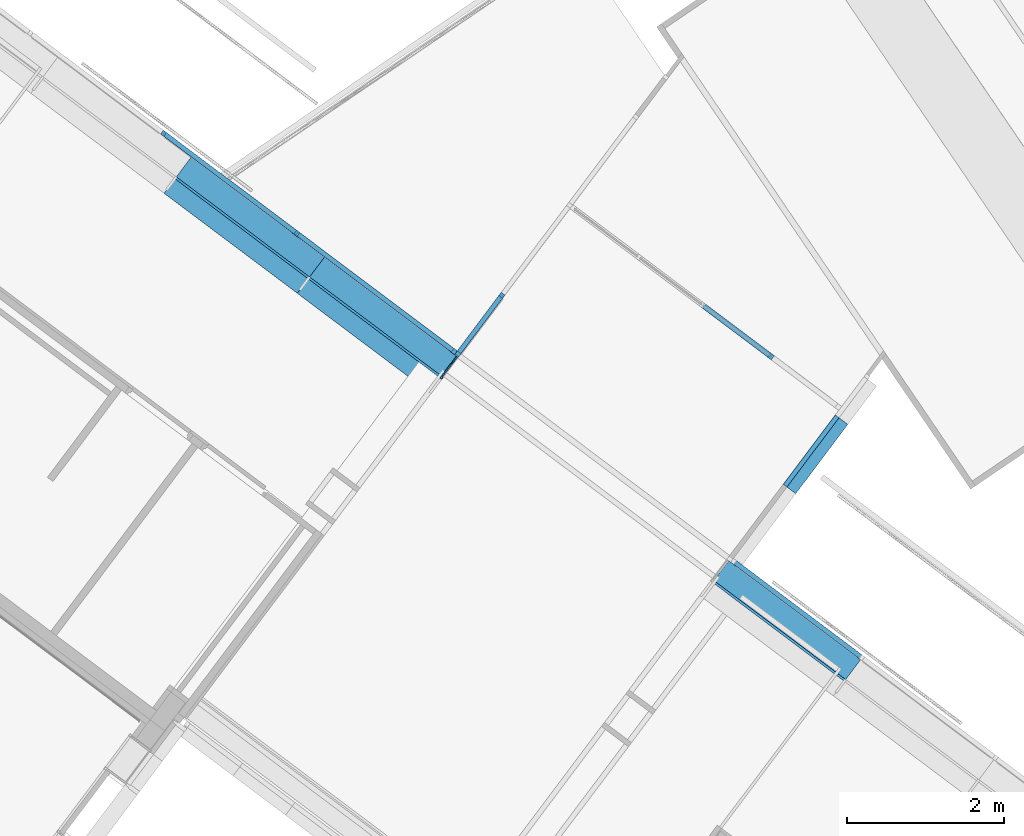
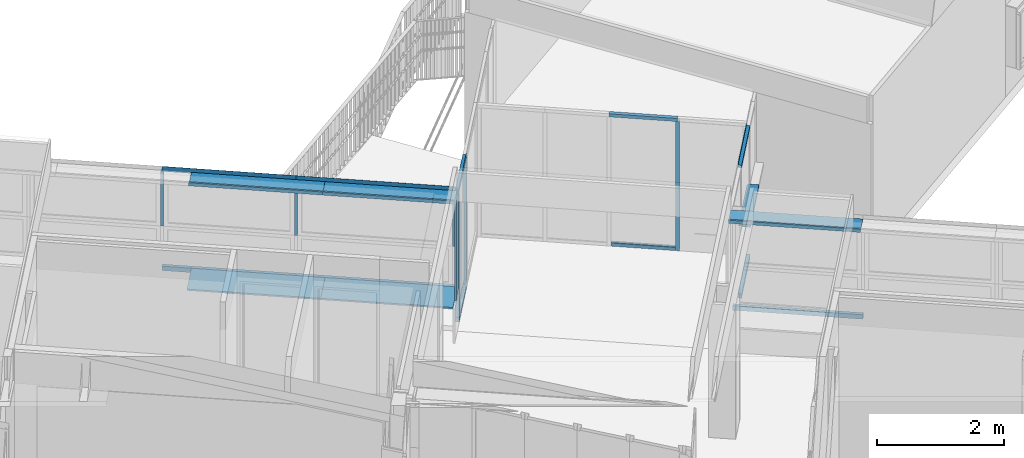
# One storey, part 64 of 243: 24 members, 7 elements without a shape of their own.
"""IFC2X3 building model written with IfcOpenShell, lengths in metres."""

from ifc_helpers import new_model, entity, si_unit, converted_unit, derived_unit, direction, frame, frame_2d, origin, origin_2d_with_axis, place, context, subcontext, project, spatial, polyline, rectangle, outline, extrude, source, transform, mapped, material, type_object, type_shapes, element, aggregate, save


model = new_model("IFC2X3")

# Units and contexts
model_context = context("Model", 3, precision=1e-05, world=origin(), true_north=direction((6.123031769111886e-17, 1.0)))
body_context = subcontext(model_context, "Body", "Model", "MODEL_VIEW")
ifc_project = project(units=[si_unit("LENGTHUNIT", "METRE"), si_unit("AREAUNIT", "SQUARE_METRE"), si_unit("VOLUMEUNIT", "CUBIC_METRE"), converted_unit("PLANEANGLEUNIT", "DEGREE", entity("IfcRatioMeasure", 0.017453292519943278), si_unit("PLANEANGLEUNIT", "RADIAN"), dimensions=[0, 0, 0, 0, 0, 0, 0]), si_unit("MASSUNIT", "GRAM", prefix="KILO"), derived_unit("MASSDENSITYUNIT", [(si_unit("MASSUNIT", "GRAM", prefix="KILO"), 1), (si_unit("LENGTHUNIT", "METRE"), -3)]), derived_unit("IONCONCENTRATIONUNIT", [(si_unit("MASSUNIT", "GRAM", prefix="KILO"), 1), (si_unit("LENGTHUNIT", "METRE"), -3)]), derived_unit("MOMENTOFINERTIAUNIT", [(si_unit("LENGTHUNIT", "METRE"), 4)]), si_unit("TIMEUNIT", "SECOND"), si_unit("FREQUENCYUNIT", "HERTZ"), si_unit("THERMODYNAMICTEMPERATUREUNIT", "DEGREE_CELSIUS"), derived_unit("THERMALTRANSMITTANCEUNIT", [(si_unit("MASSUNIT", "GRAM", prefix="KILO"), 1), (si_unit("THERMODYNAMICTEMPERATUREUNIT", "KELVIN"), -1), (si_unit("TIMEUNIT", "SECOND"), -3)]), derived_unit("THERMALCONDUCTANCEUNIT", [(si_unit("MASSUNIT", "GRAM", prefix="KILO"), 1), (si_unit("THERMODYNAMICTEMPERATUREUNIT", "KELVIN"), -1), (si_unit("TIMEUNIT", "SECOND"), -3), (si_unit("LENGTHUNIT", "METRE"), 1)]), derived_unit("VOLUMETRICFLOWRATEUNIT", [(si_unit("LENGTHUNIT", "METRE"), 3), (si_unit("TIMEUNIT", "SECOND"), -1)]), derived_unit("MASSFLOWRATEUNIT", [(si_unit("MASSUNIT", "GRAM", prefix="KILO"), 1), (si_unit("TIMEUNIT", "SECOND"), -1)]), derived_unit("ROTATIONALFREQUENCYUNIT", [(si_unit("TIMEUNIT", "SECOND"), -1)]), si_unit("ELECTRICCURRENTUNIT", "AMPERE"), si_unit("ELECTRICVOLTAGEUNIT", "VOLT"), si_unit("POWERUNIT", "WATT"), si_unit("FORCEUNIT", "NEWTON", prefix="KILO"), si_unit("ILLUMINANCEUNIT", "LUX"), si_unit("LUMINOUSFLUXUNIT", "LUMEN"), si_unit("LUMINOUSINTENSITYUNIT", "CANDELA"), derived_unit("USERDEFINED", [(si_unit("MASSUNIT", "GRAM", prefix="KILO"), -1), (si_unit("LENGTHUNIT", "METRE"), -2), (si_unit("TIMEUNIT", "SECOND"), 3), (si_unit("LUMINOUSFLUXUNIT", "LUMEN"), 1)]), derived_unit("USERDEFINED", [(si_unit("MASSUNIT", "GRAM", prefix="KILO"), 1), (si_unit("TIMEUNIT", "SECOND"), -3), (si_unit("LENGTHUNIT", "METRE"), 3), (si_unit("ELECTRICCURRENTUNIT", "AMPERE"), -2)]), derived_unit("SOUNDPOWERUNIT", [(si_unit("MASSUNIT", "GRAM", prefix="KILO"), 1), (si_unit("TIMEUNIT", "SECOND"), -3), (si_unit("LENGTHUNIT", "METRE"), 2)]), derived_unit("SOUNDPRESSUREUNIT", [(si_unit("MASSUNIT", "GRAM", prefix="KILO"), 1), (si_unit("LENGTHUNIT", "METRE"), -1), (si_unit("TIMEUNIT", "SECOND"), -2)]), derived_unit("LINEARVELOCITYUNIT", [(si_unit("LENGTHUNIT", "METRE"), 1), (si_unit("TIMEUNIT", "SECOND"), -1)]), si_unit("PRESSUREUNIT", "PASCAL"), derived_unit("USERDEFINED", [(si_unit("MASSUNIT", "GRAM", prefix="KILO"), 1), (si_unit("LENGTHUNIT", "METRE"), -2), (si_unit("TIMEUNIT", "SECOND"), -2)]), derived_unit("LINEARFORCEUNIT", [(si_unit("MASSUNIT", "GRAM", prefix="KILO"), 1), (si_unit("TIMEUNIT", "SECOND"), -2)]), derived_unit("PLANARFORCEUNIT", [(si_unit("MASSUNIT", "GRAM", prefix="KILO"), 1), (si_unit("LENGTHUNIT", "METRE"), -1), (si_unit("TIMEUNIT", "SECOND"), -2)]), derived_unit("SPECIFICHEATCAPACITYUNIT", [(si_unit("THERMODYNAMICTEMPERATUREUNIT", "KELVIN"), -1), (si_unit("LENGTHUNIT", "METRE"), 2), (si_unit("TIMEUNIT", "SECOND"), -2)]), derived_unit("HEATINGVALUEUNIT", [(si_unit("LENGTHUNIT", "METRE"), 2), (si_unit("TIMEUNIT", "SECOND"), -2)]), derived_unit("VAPORPERMEABILITYUNIT", [(si_unit("LENGTHUNIT", "METRE"), -1), (si_unit("TIMEUNIT", "SECOND"), 1)]), derived_unit("DYNAMICVISCOSITYUNIT", [(si_unit("MASSUNIT", "GRAM", prefix="KILO"), 1), (si_unit("TIMEUNIT", "SECOND"), -1), (si_unit("LENGTHUNIT", "METRE"), -1)]), derived_unit("THERMALEXPANSIONCOEFFICIENTUNIT", [(si_unit("THERMODYNAMICTEMPERATUREUNIT", "KELVIN"), -1)]), derived_unit("MODULUSOFELASTICITYUNIT", [(si_unit("MASSUNIT", "GRAM", prefix="KILO"), 1), (si_unit("LENGTHUNIT", "METRE"), -1), (si_unit("TIMEUNIT", "SECOND"), -2)]), derived_unit("ISOTHERMALMOISTURECAPACITYUNIT", [(si_unit("LENGTHUNIT", "METRE"), 3), (si_unit("MASSUNIT", "GRAM", prefix="KILO"), -1)]), derived_unit("MOISTUREDIFFUSIVITYUNIT", [(si_unit("TIMEUNIT", "SECOND"), -1), (si_unit("LENGTHUNIT", "METRE"), 2)])], contexts=[model_context])

# Site, building, storey
site_placement = place(None, frame((0.0, 0.0, 235.0), z_axis=(0.0, 0.0, 1.0), x_axis=(-0.7996477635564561, 0.6004693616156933, 0.0)))
site = spatial("IfcSite", under=ifc_project, at=site_placement, Name="Default", CompositionType="ELEMENT")
building_placement = place(site_placement, origin())
building = spatial("IfcBuilding", under=site, at=building_placement, CompositionType="ELEMENT")
storey_placement = place(building_placement, origin())
storey = spatial("IfcBuildingStorey", under=building, at=storey_placement, Name="P0- Escola", CompositionType="ELEMENT", Elevation=0.0)

# Curtain wall, members
curtain_wall_type_1 = type_object("IfcCurtainWallType", Name="Muro cortina:MC- EXT- MC6", PredefinedType="NOTDEFINED")
curtain_wall_1_placement = place(storey_placement, origin())
curtain_wall_1 = element("IfcCurtainWall", 1, at=curtain_wall_1_placement, inside=storey, type_object=curtain_wall_type_1, Name="Muro cortina:MC- EXT- MC6", ObjectType="Muro cortina:MC- EXT- MC6")
ifc_material_1 = material(Name="_Alumini- T1- Perfil")
member_type_1 = type_object("IfcMemberType", Name="Montante rectangular:MC- Alu- 50x60 cm- Fa pista- Centre", PredefinedType="MULLION", material=ifc_material_1)
shared_shape_1 = source(origin(), body_context, "Body", "SweptSolid", [
    extrude(rectangle(XDim=0.0600000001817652, YDim=0.05, at=frame_2d((-8.673617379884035e-18, 0.0), x_axis=(1.0, 0.0))), frame((-0.025, -0.030000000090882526, -1.0475000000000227), z_axis=(0.0, 0.0, 1.0), x_axis=(0.0, -1.0, 0.0)), (0.0, 0.0, 1.0), 1.0475000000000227),
])
type_shapes(member_type_1, [shared_shape_1])
member_1_placement = place(curtain_wall_1_placement, frame((66.43814360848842, -42.34019175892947, 2.502500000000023), z_axis=(0.0, 0.0, 1.0), x_axis=(-1.0, 0.0, 0.0)))
member_1 = element("IfcMember", 2, at=member_1_placement, type_object=member_type_1, material=ifc_material_1, Name="Montante rectangular:MC- Alu- 50x60 cm- Fa pista- Centre", ObjectType="Montante rectangular:MC- Alu- 50x60 cm- Fa pista- Centre", context=body_context, shape_type="MappedRepresentation", body=[
    mapped(shared_shape_1, transform((0.0, 0.0, 0.0), scale=1.0)),
])
member_type_2 = type_object("IfcMemberType", Name="Montante rectangular:MC- Alu- 140x52,5 cm- Fa pista- Superior", PredefinedType="MULLION", material=ifc_material_1)
shared_shape_2 = source(origin(), body_context, "Body", "SweptSolid", [
    extrude(outline(polyline([(-0.03933333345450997, -0.04916666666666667), (0.02066666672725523, -0.04916666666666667), (0.020666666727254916, 0.048333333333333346), (0.018666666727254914, 0.04833333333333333), (0.018666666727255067, 0.00083333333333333), (-0.03933333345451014, 0.00083333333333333), (-0.03933333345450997, -0.04916666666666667)])), frame((-0.048333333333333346, -0.03933333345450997, -2.117000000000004), z_axis=(0.0, 0.0, 1.0), x_axis=(0.0, -1.0, 0.0)), (0.0, 0.0, 1.0), 2.117000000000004),
])
type_shapes(member_type_2, [shared_shape_2])
member_2_placement = place(curtain_wall_1_placement, frame((71.08155280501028, -42.340191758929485, 2.6000000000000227), z_axis=(1.0, 0.0, 0.0), x_axis=(0.0, 0.0, 1.0)))
member_2 = element("IfcMember", 3, at=member_2_placement, type_object=member_type_2, material=ifc_material_1, Name="Montante rectangular:MC- Alu- 140x52,5 cm- Fa pista- Superior", ObjectType="Montante rectangular:MC- Alu- 140x52,5 cm- Fa pista- Superior", context=body_context, shape_type="MappedRepresentation", body=[
    mapped(shared_shape_2, transform((0.0, 0.0, 0.0), scale=1.0)),
])

# Curtain wall, member
curtain_wall_2_placement = place(storey_placement, origin())
curtain_wall_2 = element("IfcCurtainWall", 4, at=curtain_wall_2_placement, inside=storey, type_object=curtain_wall_type_1, Name="Muro cortina:MC- EXT- MC6", ObjectType="Muro cortina:MC- EXT- MC6")
member_type_3 = type_object("IfcMemberType", Name="Montante rectangular:MC- Alu- 52x80 cm- Fa pista- inferior", PredefinedType="MULLION", material=ifc_material_1)
shared_shape_3 = source(origin(), body_context, "Body", "SweptSolid", [
    extrude(rectangle(XDim=0.06000000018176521, YDim=0.085, at=origin_2d_with_axis()), frame((-0.0425, -0.030000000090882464, -2.0643445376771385), z_axis=(0.0, 0.0, 1.0), x_axis=(0.0, -1.0, 0.0)), (0.0, 0.0, 1.0), 2.064344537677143),
])
type_shapes(member_type_3, [shared_shape_3])
member_3_placement = place(curtain_wall_2_placement, frame((59.986143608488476, -42.34019175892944, 0.6000000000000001), z_axis=(-1.0, 0.0, 0.0), x_axis=(0.0, 0.0, -1.0)))
member_3 = element("IfcMember", 5, at=member_3_placement, type_object=member_type_3, material=ifc_material_1, Name="Montante rectangular:MC- Alu- 52x80 cm- Fa pista- inferior", ObjectType="Montante rectangular:MC- Alu- 52x80 cm- Fa pista- inferior", context=body_context, shape_type="MappedRepresentation", body=[
    mapped(shared_shape_3, transform((0.0, 0.0, 0.0), scale=1.0)),
])
aggregate(curtain_wall_2, [member_3])

# Member
member_type_4 = type_object("IfcMemberType", Name="Montante rectangular:MC- Alu- 52x80 cm- Fa pista- inferior", PredefinedType="MULLION", material=ifc_material_1)
shared_shape_4 = source(origin(), body_context, "Body", "SweptSolid", [
    extrude(rectangle(XDim=0.06000000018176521, YDim=0.085, at=origin_2d_with_axis()), frame((-0.0425, -0.030000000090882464, -2.117000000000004), z_axis=(0.0, 0.0, 1.0), x_axis=(0.0, -1.0, 0.0)), (0.0, 0.0, 1.0), 2.117000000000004),
])
type_shapes(member_type_4, [shared_shape_4])
member_4_placement = place(curtain_wall_1_placement, frame((68.96455280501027, -42.34019175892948, 0.6000000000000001), z_axis=(-1.0, 0.0, 0.0), x_axis=(0.0, 0.0, -1.0)))
member_4 = element("IfcMember", 6, at=member_4_placement, type_object=member_type_4, material=ifc_material_1, Name="Montante rectangular:MC- Alu- 52x80 cm- Fa pista- inferior", ObjectType="Montante rectangular:MC- Alu- 52x80 cm- Fa pista- inferior", context=body_context, shape_type="MappedRepresentation", body=[
    mapped(shared_shape_4, transform((0.0, 0.0, 0.0), scale=1.0)),
])

member_type_5 = type_object("IfcMemberType", Name="Montante rectangular:MC- Alu- 50x60 cm- Fa pista- Centre", PredefinedType="MULLION", material=ifc_material_1)
shared_shape_5 = source(origin(), body_context, "Body", "SweptSolid", [
    extrude(rectangle(XDim=0.0600000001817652, YDim=0.05, at=frame_2d((8.673617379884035e-18, 0.0), x_axis=(1.0, 0.0))), frame((0.0, -0.030000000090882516, -1.0475000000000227), z_axis=(0.0, 0.0, 1.0), x_axis=(0.0, -1.0, 0.0)), (0.0, 0.0, 1.0), 1.0475000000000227),
])
type_shapes(member_type_5, [shared_shape_5])
member_5_placement = place(curtain_wall_1_placement, frame((68.96455280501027, -42.34019175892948, 1.455), z_axis=(0.0, 0.0, -1.0), x_axis=(1.0, 0.0, 0.0)))
member_5 = element("IfcMember", 7, at=member_5_placement, type_object=member_type_5, material=ifc_material_1, Name="Montante rectangular:MC- Alu- 50x60 cm- Fa pista- Centre", ObjectType="Montante rectangular:MC- Alu- 50x60 cm- Fa pista- Centre", context=body_context, shape_type="MappedRepresentation", body=[
    mapped(shared_shape_5, transform((0.0, 0.0, 0.0), scale=1.0)),
])

member_6_placement = place(curtain_wall_1_placement, frame((71.08155280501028, -42.340191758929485, 1.455), z_axis=(0.0, 0.0, -1.0), x_axis=(1.0, 0.0, 0.0)))
member_6 = element("IfcMember", 8, at=member_6_placement, type_object=member_type_5, material=ifc_material_1, Name="Montante rectangular:MC- Alu- 50x60 cm- Fa pista- Centre", ObjectType="Montante rectangular:MC- Alu- 50x60 cm- Fa pista- Centre", context=body_context, shape_type="MappedRepresentation", body=[
    mapped(shared_shape_5, transform((0.0, 0.0, 0.0), scale=1.0)),
])

member_type_6 = type_object("IfcMemberType", Name="Montante rectangular:MC- Alu- 52x80 cm- Fa pista- inferior", PredefinedType="MULLION", material=ifc_material_1)
shared_shape_6 = source(origin(), body_context, "Body", "SweptSolid", [
    extrude(rectangle(XDim=0.06000000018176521, YDim=0.085, at=origin_2d_with_axis()), frame((-0.0425, -0.030000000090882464, -2.5264091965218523), z_axis=(0.0, 0.0, 1.0), x_axis=(0.0, -1.0, 0.0)), (0.0, 0.0, 1.0), 2.526409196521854),
])
type_shapes(member_type_6, [shared_shape_6])
member_7_placement = place(curtain_wall_1_placement, frame((66.43814360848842, -42.34019175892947, 0.6000000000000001), z_axis=(-1.0, 0.0, 0.0), x_axis=(0.0, 0.0, -1.0)))
member_7 = element("IfcMember", 9, at=member_7_placement, type_object=member_type_6, material=ifc_material_1, Name="Montante rectangular:MC- Alu- 52x80 cm- Fa pista- inferior", ObjectType="Montante rectangular:MC- Alu- 52x80 cm- Fa pista- inferior", context=body_context, shape_type="MappedRepresentation", body=[
    mapped(shared_shape_6, transform((0.0, 0.0, 0.0), scale=1.0)),
])

member_type_7 = type_object("IfcMemberType", Name="Montante rectangular:MC- Alu- 140x52,5 cm- Fa pista- Superior", PredefinedType="MULLION", material=ifc_material_1)
shared_shape_7 = source(origin(), body_context, "Body", "SweptSolid", [
    extrude(outline(polyline([(-0.03933333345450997, -0.04916666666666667), (0.02066666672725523, -0.04916666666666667), (0.020666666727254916, 0.048333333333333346), (0.018666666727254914, 0.04833333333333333), (0.018666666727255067, 0.00083333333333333), (-0.03933333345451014, 0.00083333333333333), (-0.03933333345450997, -0.04916666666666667)])), frame((-0.048333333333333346, -0.03933333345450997, -2.5264091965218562), z_axis=(0.0, 0.0, 1.0), x_axis=(0.0, -1.0, 0.0)), (0.0, 0.0, 1.0), 2.526409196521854),
])
type_shapes(member_type_7, [shared_shape_7])
member_8_placement = place(curtain_wall_1_placement, frame((68.96455280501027, -42.34019175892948, 2.6000000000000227), z_axis=(1.0, 0.0, 0.0), x_axis=(0.0, 0.0, 1.0)))
member_8 = element("IfcMember", 10, at=member_8_placement, type_object=member_type_7, material=ifc_material_1, Name="Montante rectangular:MC- Alu- 140x52,5 cm- Fa pista- Superior", ObjectType="Montante rectangular:MC- Alu- 140x52,5 cm- Fa pista- Superior", context=body_context, shape_type="MappedRepresentation", body=[
    mapped(shared_shape_7, transform((0.0, 0.0, 0.0), scale=1.0)),
])

aggregate(curtain_wall_1, [member_7, member_1, member_2, member_8, member_4, member_5, member_6])

# Curtain wall, member
curtain_wall_type_2 = type_object("IfcCurtainWallType", PredefinedType="NOTDEFINED")
curtain_wall_3_placement = place(storey_placement, origin())
curtain_wall_3 = element("IfcCurtainWall", 11, at=curtain_wall_3_placement, inside=storey, type_object=curtain_wall_type_2)
ifc_material_2 = material(Name="_Fusta massisa- T1")
member_type_8 = type_object("IfcMemberType", Name="Montante rectangular:MC- Fusta- 34x3 cm- Fa Pista- Remat Superior", PredefinedType="MULLION", material=ifc_material_2)
shared_shape_8 = source(origin(), body_context, "Body", "SweptSolid", [
    extrude(outline(polyline([(-0.2199999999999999, -0.02666666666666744), (0.12500000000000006, -0.02666666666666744), (0.12499999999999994, 0.03333333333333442), (0.09499999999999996, 0.03333333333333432), (0.09499999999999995, -0.0066666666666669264), (-0.21999999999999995, -0.006666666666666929), (-0.2199999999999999, -0.02666666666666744)])), frame((-0.033333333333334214, 0.029999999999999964, -2.0943445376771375), z_axis=(0.0, 0.0, 1.0), x_axis=(0.0, -1.0, 0.0)), (0.0, 0.0, 1.0), 2.0943445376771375),
])
type_shapes(member_type_8, [shared_shape_8])
member_9_placement = place(curtain_wall_3_placement, frame((62.08048814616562, -42.03019175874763, 2.565), z_axis=(1.0, 0.0, 0.0), x_axis=(0.0, 0.0, 1.0)))
member_9 = element("IfcMember", 12, at=member_9_placement, type_object=member_type_8, material=ifc_material_2, Name="Montante rectangular:MC- Fusta- 34x3 cm- Fa Pista- Remat Superior", ObjectType="Montante rectangular:MC- Fusta- 34x3 cm- Fa Pista- Remat Superior", context=body_context, shape_type="MappedRepresentation", body=[
    mapped(shared_shape_8, transform((0.0, 0.0, 0.0), scale=1.0)),
])
aggregate(curtain_wall_3, [member_9])

# Curtain wall, members
curtain_wall_type_3 = type_object("IfcCurtainWallType", PredefinedType="NOTDEFINED")
curtain_wall_4_placement = place(storey_placement, origin())
curtain_wall_4 = element("IfcCurtainWall", 13, at=curtain_wall_4_placement, inside=storey, type_object=curtain_wall_type_3)
member_type_9 = type_object("IfcMemberType", Name="Montante rectangular:MC- Alu- 52x80 cm- Fa pista- inferior", PredefinedType="MULLION", material=ifc_material_1)
shared_shape_9 = source(origin(), body_context, "Body", "SweptSolid", [
    extrude(rectangle(XDim=0.06000000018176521, YDim=0.085, at=origin_2d_with_axis()), frame((-0.0425, -0.030000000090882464, -1.1020000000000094), z_axis=(0.0, 0.0, 1.0), x_axis=(0.0, -1.0, 0.0)), (0.0, 0.0, 1.0), 1.1020000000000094),
])
type_shapes(member_type_9, [shared_shape_9])
member_10_placement = place(curtain_wall_4_placement, frame((62.05048814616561, -43.47118994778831, 0.0), z_axis=(0.0, 1.0, 0.0), x_axis=(0.0, 0.0, -1.0)))
member_10 = element("IfcMember", 14, at=member_10_placement, type_object=member_type_9, material=ifc_material_1, Name="Montante rectangular:MC- Alu- 52x80 cm- Fa pista- inferior", ObjectType="Montante rectangular:MC- Alu- 52x80 cm- Fa pista- inferior", context=body_context, shape_type="MappedRepresentation", body=[
    mapped(shared_shape_9, transform((0.0, 0.0, 0.0), scale=1.0)),
])
member_type_10 = type_object("IfcMemberType", Name="Montante rectangular:MC- Alu- 140x52,5 cm- Fa pista- Superior", PredefinedType="MULLION", material=ifc_material_1)
shared_shape_10 = source(origin(), body_context, "Body", "SweptSolid", [
    extrude(outline(polyline([(-0.03933333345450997, -0.04916666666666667), (0.02066666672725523, -0.04916666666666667), (0.020666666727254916, 0.048333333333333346), (0.018666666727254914, 0.04833333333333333), (0.018666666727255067, 0.00083333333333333), (-0.03933333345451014, 0.00083333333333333), (-0.03933333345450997, -0.04916666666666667)])), frame((-0.048333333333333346, -0.03933333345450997, -1.1020000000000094), z_axis=(0.0, 0.0, 1.0), x_axis=(0.0, -1.0, 0.0)), (0.0, 0.0, 1.0), 1.1020000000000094),
])
type_shapes(member_type_10, [shared_shape_10])
member_11_placement = place(curtain_wall_4_placement, frame((62.050488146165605, -44.57318994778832, 2.6000000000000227), z_axis=(0.0, -1.0, 0.0), x_axis=(0.0, 0.0, 1.0)))
member_11 = element("IfcMember", 15, at=member_11_placement, type_object=member_type_10, material=ifc_material_1, Name="Montante rectangular:MC- Alu- 140x52,5 cm- Fa pista- Superior", ObjectType="Montante rectangular:MC- Alu- 140x52,5 cm- Fa pista- Superior", context=body_context, shape_type="MappedRepresentation", body=[
    mapped(shared_shape_10, transform((0.0, 0.0, 0.0), scale=1.0)),
])
member_type_11 = type_object("IfcMemberType", Name="Montante rectangular:MC- Alu- 140x52,5 cm- Fa patis- Centre", PredefinedType="MULLION", material=ifc_material_1)
shared_shape_11 = source(origin(), body_context, "Body", "SweptSolid", [
    extrude(outline(polyline([(-0.11699999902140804, -0.026250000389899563), (0.021999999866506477, -0.026250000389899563), (0.021999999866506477, -0.01500000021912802), (0.07299999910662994, -0.01500000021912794), (0.07299999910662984, 0.015000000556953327), (0.02200000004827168, 0.015000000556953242), (0.02200000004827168, 0.026250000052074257), (-0.11699999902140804, 0.026250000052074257), (-0.11699999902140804, -0.026250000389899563)])), frame((0.0, 0.022999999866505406, -1.1020000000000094), z_axis=(0.0, 0.0, 1.0), x_axis=(0.0, -1.0, 0.0)), (0.0, 0.0, 1.0), 1.1020000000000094),
])
type_shapes(member_type_11, [shared_shape_11])
member_12_placement = place(curtain_wall_4_placement, frame((62.050488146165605, -44.57318994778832, 1.4000000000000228), z_axis=(0.0, -1.0, 0.0), x_axis=(0.0, 0.0, 1.0)))
member_12 = element("IfcMember", 16, at=member_12_placement, type_object=member_type_11, material=ifc_material_1, Name="Montante rectangular:MC- Alu- 140x52,5 cm- Fa patis- Centre", ObjectType="Montante rectangular:MC- Alu- 140x52,5 cm- Fa patis- Centre", context=body_context, shape_type="MappedRepresentation", body=[
    mapped(shared_shape_11, transform((0.0, 0.0, 0.0), scale=1.0)),
])
aggregate(curtain_wall_4, [member_10, member_11, member_12])

curtain_wall_5_placement = place(storey_placement, origin())
curtain_wall_5 = element("IfcCurtainWall", 17, at=curtain_wall_5_placement, inside=storey, type_object=curtain_wall_type_3)
member_type_12 = type_object("IfcMemberType", Name="Montante rectangular:MC- Alu- 52x80 cm- Fa pista- inferior", PredefinedType="MULLION", material=ifc_material_1)
shared_shape_12 = source(origin(), body_context, "Body", "SweptSolid", [
    extrude(rectangle(XDim=0.06000000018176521, YDim=0.08500000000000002, at=frame_2d((-5.204170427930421e-18, -6.938893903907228e-18), x_axis=(1.0, 0.0))), frame((-0.0425, 0.030000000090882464, -0.9549981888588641), z_axis=(0.0, 0.0, 1.0), x_axis=(0.0, -1.0, 0.0)), (0.0, 0.0, 1.0), 0.9549981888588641),
])
type_shapes(member_type_12, [shared_shape_12])
member_13_placement = place(curtain_wall_5_placement, frame((66.43814360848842, -42.290191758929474, 0.0), z_axis=(0.0, 1.0, 0.0), x_axis=(0.0, 0.0, -1.0)))
member_13 = element("IfcMember", 18, at=member_13_placement, type_object=member_type_12, material=ifc_material_1, Name="Montante rectangular:MC- Alu- 52x80 cm- Fa pista- inferior", ObjectType="Montante rectangular:MC- Alu- 52x80 cm- Fa pista- inferior", context=body_context, shape_type="MappedRepresentation", body=[
    mapped(shared_shape_12, transform((0.0, 0.0, 0.0), scale=1.0)),
])
member_type_13 = type_object("IfcMemberType", Name="Montante rectangular:MC- Alu- 50x60 cm- Fa pista- Centre", PredefinedType="MULLION", material=ifc_material_1)
shared_shape_13 = source(origin(), body_context, "Body", "SweptSolid", [
    extrude(rectangle(XDim=0.06000000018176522, YDim=0.05, at=origin_2d_with_axis()), frame((-0.025, 0.03000000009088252, -2.4175000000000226), z_axis=(0.0, 0.0, 1.0), x_axis=(0.0, -1.0, 0.0)), (0.0, 0.0, 1.0), 2.4175000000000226),
])
type_shapes(member_type_13, [shared_shape_13])
member_14_placement = place(curtain_wall_5_placement, frame((66.43814360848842, -42.290191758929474, 2.502500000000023), z_axis=(0.0, 0.0, 1.0), x_axis=(0.0, 1.0, 0.0)))
member_14 = element("IfcMember", 19, at=member_14_placement, type_object=member_type_13, material=ifc_material_1, Name="Montante rectangular:MC- Alu- 50x60 cm- Fa pista- Centre", ObjectType="Montante rectangular:MC- Alu- 50x60 cm- Fa pista- Centre", context=body_context, shape_type="MappedRepresentation", body=[
    mapped(shared_shape_13, transform((0.0, 0.0, 0.0), scale=1.0)),
])
member_type_14 = type_object("IfcMemberType", Name="Montante rectangular:MC- Alu- 140x52,5 cm- Fa pista- Superior", PredefinedType="MULLION", material=ifc_material_1)
shared_shape_14 = source(origin(), body_context, "Body", "SweptSolid", [
    extrude(outline(polyline([(-0.02066666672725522, -0.04916666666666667), (0.03933333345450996, -0.04916666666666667), (0.03933333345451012, 0.00083333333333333), (-0.018666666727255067, 0.00083333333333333), (-0.018666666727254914, 0.04833333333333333), (-0.020666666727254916, 0.048333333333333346), (-0.02066666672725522, -0.04916666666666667)])), frame((-0.048333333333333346, 0.03933333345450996, -0.9549981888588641), z_axis=(0.0, 0.0, 1.0), x_axis=(0.0, -1.0, 0.0)), (0.0, 0.0, 1.0), 0.9549981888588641),
])
type_shapes(member_type_14, [shared_shape_14])
member_15_placement = place(curtain_wall_5_placement, frame((66.43814360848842, -43.24518994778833, 2.6000000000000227), z_axis=(0.0, -1.0, 0.0), x_axis=(0.0, 0.0, 1.0)))
member_15 = element("IfcMember", 20, at=member_15_placement, type_object=member_type_14, material=ifc_material_1, Name="Montante rectangular:MC- Alu- 140x52,5 cm- Fa pista- Superior", ObjectType="Montante rectangular:MC- Alu- 140x52,5 cm- Fa pista- Superior", context=body_context, shape_type="MappedRepresentation", body=[
    mapped(shared_shape_14, transform((0.0, 0.0, 0.0), scale=1.0)),
])
member_type_15 = type_object("IfcMemberType", Name="Montante rectangular:MC- Alu- 50x60 cm- Fa pista- Centre", PredefinedType="MULLION", material=ifc_material_1)
shared_shape_15 = source(origin(), body_context, "Body", "SweptSolid", [
    extrude(rectangle(XDim=0.0600000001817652, YDim=0.05, at=frame_2d((5.204170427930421e-18, 0.0), x_axis=(1.0, 0.0))), frame((0.0, 0.030000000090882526, -2.417500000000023), z_axis=(0.0, 0.0, 1.0), x_axis=(0.0, -1.0, 0.0)), (0.0, 0.0, 1.0), 2.417500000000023),
])
type_shapes(member_type_15, [shared_shape_15])
member_16_placement = place(curtain_wall_5_placement, frame((66.43814360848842, -43.24518994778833, 0.085), z_axis=(0.0, 0.0, -1.0), x_axis=(0.0, -1.0, 0.0)))
member_16 = element("IfcMember", 21, at=member_16_placement, type_object=member_type_15, material=ifc_material_1, Name="Montante rectangular:MC- Alu- 50x60 cm- Fa pista- Centre", ObjectType="Montante rectangular:MC- Alu- 50x60 cm- Fa pista- Centre", context=body_context, shape_type="MappedRepresentation", body=[
    mapped(shared_shape_15, transform((0.0, 0.0, 0.0), scale=1.0)),
])
aggregate(curtain_wall_5, [member_13, member_14, member_15, member_16])

curtain_wall_type_4 = type_object("IfcCurtainWallType", Name="Muro cortina:MC- INT- C1", PredefinedType="NOTDEFINED")
curtain_wall_6_placement = place(storey_placement, origin())
curtain_wall_6 = element("IfcCurtainWall", 22, at=curtain_wall_6_placement, inside=storey, type_object=curtain_wall_type_4, Name="Muro cortina:MC- INT- C1", ObjectType="Muro cortina:MC- INT- C1")
member_type_16 = type_object("IfcMemberType", Name="Montante rectangular:MC- Fusta- 6,5x9- Biblio- Esquerra", PredefinedType="MULLION", material=ifc_material_2)
shared_shape_16 = source(origin(), body_context, "Body", "SweptSolid", [
    extrude(outline(polyline([(-0.03249999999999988, -0.018749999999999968), (-0.010000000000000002, -0.018749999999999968), (-0.010000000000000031, -0.0037500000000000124), (0.009999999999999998, -0.0037500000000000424), (0.009999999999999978, -0.018750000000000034), (0.03249999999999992, -0.01875000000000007), (0.03250000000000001, 0.04125000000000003), (-0.03249999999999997, 0.041250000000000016), (-0.03249999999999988, -0.018749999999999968)])), frame((-0.04124999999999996, 0.0, -1.0846554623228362), z_axis=(0.0, 0.0, 1.0), x_axis=(0.0, -1.0, 0.0)), (0.0, 0.0, 1.0), 1.0846554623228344),
])
type_shapes(member_type_16, [shared_shape_16])
member_17_placement = place(curtain_wall_6_placement, frame((63.21048814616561, -44.67643550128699, 2.5372612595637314), z_axis=(-1.0, 0.0, 0.0), x_axis=(0.0, 0.0, 1.0)))
member_17 = element("IfcMember", 23, at=member_17_placement, type_object=member_type_16, material=ifc_material_2, Name="Montante rectangular:MC- Fusta- 6,5x9- Biblio- Esquerra", ObjectType="Montante rectangular:MC- Fusta- 6,5x9- Biblio- Esquerra", context=body_context, shape_type="MappedRepresentation", body=[
    mapped(shared_shape_16, transform((0.0, 0.0, 0.0), scale=1.0)),
])
member_type_17 = type_object("IfcMemberType", Name="Montante rectangular:MC- Fusta- 6,5x9- Biblio- Esquerra", PredefinedType="MULLION", material=ifc_material_2)
shared_shape_17 = source(origin(), body_context, "Body", "SweptSolid", [
    extrude(outline(polyline([(-0.032499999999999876, -0.01874999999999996), (-0.010000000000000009, -0.01874999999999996), (-0.010000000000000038, -0.003750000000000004), (0.01, -0.0037500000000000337), (0.00999999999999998, -0.018750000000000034), (0.032499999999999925, -0.01875000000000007), (0.032500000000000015, 0.04125000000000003), (-0.03249999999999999, 0.041250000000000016), (-0.032499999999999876, -0.01874999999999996)])), frame((-0.011250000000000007, 0.0, -2.4772612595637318), z_axis=(0.0, 0.0, 1.0), x_axis=(0.0, -1.0, 0.0)), (0.0, 0.0, 1.0), 2.4772612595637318),
])
type_shapes(member_type_17, [shared_shape_17])
member_18_placement = place(curtain_wall_6_placement, frame((63.21048814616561, -44.67643550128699, 0.0), z_axis=(0.0, 0.0, -1.0), x_axis=(-1.0, 0.0, 0.0)))
member_18 = element("IfcMember", 24, at=member_18_placement, type_object=member_type_17, material=ifc_material_2, Name="Montante rectangular:MC- Fusta- 6,5x9- Biblio- Esquerra", ObjectType="Montante rectangular:MC- Fusta- 6,5x9- Biblio- Esquerra", context=body_context, shape_type="MappedRepresentation", body=[
    mapped(shared_shape_17, transform((0.0, 0.0, 0.0), scale=1.0)),
])
member_type_18 = type_object("IfcMemberType", Name="Montante rectangular:MC- Fusta- 6,5x9- Biblio- Inferior", PredefinedType="MULLION", material=ifc_material_2)
shared_shape_18 = source(origin(), body_context, "Body", "SweptSolid", [
    extrude(outline(polyline([(-0.03249999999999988, -0.018749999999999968), (-0.010000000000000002, -0.018749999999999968), (-0.010000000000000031, -0.0037500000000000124), (0.009999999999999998, -0.0037500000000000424), (0.009999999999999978, -0.018750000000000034), (0.03249999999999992, -0.01875000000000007), (0.03250000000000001, 0.04125000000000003), (-0.03249999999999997, 0.041250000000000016), (-0.03249999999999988, -0.018749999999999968)])), frame((-0.04124999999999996, 0.0, -1.0246554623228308), z_axis=(0.0, 0.0, 1.0), x_axis=(0.0, -1.0, 0.0)), (0.0, 0.0, 1.0), 1.0246554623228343),
])
type_shapes(member_type_18, [shared_shape_18])
member_19_placement = place(curtain_wall_6_placement, frame((64.26514360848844, -44.676435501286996, 0.0), z_axis=(1.0, 0.0, 0.0), x_axis=(0.0, 0.0, -1.0)))
member_19 = element("IfcMember", 25, at=member_19_placement, type_object=member_type_18, material=ifc_material_2, Name="Montante rectangular:MC- Fusta- 6,5x9- Biblio- Inferior", ObjectType="Montante rectangular:MC- Fusta- 6,5x9- Biblio- Inferior", context=body_context, shape_type="MappedRepresentation", body=[
    mapped(shared_shape_18, transform((0.0, 0.0, 0.0), scale=1.0)),
])
aggregate(curtain_wall_6, [member_17, member_18, member_19])

curtain_wall_7_placement = place(storey_placement, origin())
curtain_wall_7 = element("IfcCurtainWall", 26, at=curtain_wall_7_placement, inside=storey, type_object=curtain_wall_type_2)
member_type_19 = type_object("IfcMemberType", Name="Montante rectangular:MC- Fusta- 34x3 cm- Fa Pista- Remat Superior", PredefinedType="MULLION", material=ifc_material_2)
shared_shape_19 = source(origin(), body_context, "Body", "SweptSolid", [
    extrude(outline(polyline([(-0.12500000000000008, -0.02666666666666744), (0.22, -0.02666666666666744), (0.21999999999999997, -0.006666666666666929), (-0.0949999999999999, -0.0066666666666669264), (-0.09499999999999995, 0.03333333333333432), (-0.12499999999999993, 0.03333333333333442), (-0.12500000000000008, -0.02666666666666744)])), frame((-0.033333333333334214, -0.029999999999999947, -2.0943445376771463), z_axis=(0.0, 0.0, 1.0), x_axis=(0.0, -1.0, 0.0)), (0.0, 0.0, 1.0), 2.094344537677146),
])
type_shapes(member_type_19, [shared_shape_19])
member_20_placement = place(curtain_wall_7_placement, frame((66.4081436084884, -42.03019175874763, 2.565), z_axis=(-1.0, 0.0, 0.0), x_axis=(0.0, 0.0, 1.0)))
member_20 = element("IfcMember", 27, at=member_20_placement, type_object=member_type_19, material=ifc_material_2, Name="Montante rectangular:MC- Fusta- 34x3 cm- Fa Pista- Remat Superior", ObjectType="Montante rectangular:MC- Fusta- 34x3 cm- Fa Pista- Remat Superior", context=body_context, shape_type="MappedRepresentation", body=[
    mapped(shared_shape_19, transform((0.0, 0.0, 0.0), scale=1.0)),
])
member_type_20 = type_object("IfcMemberType", Name="Montante rectangular:MC- Fusta- 34x3 cm- Fa Pista- Remat dreta", PredefinedType="MULLION", material=ifc_material_2)
shared_shape_20 = source(origin(), body_context, "Body", "SweptSolid", [
    extrude(outline(polyline([(-0.12500000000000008, -0.01666666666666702), (0.22, -0.01666666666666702), (0.22000000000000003, 0.003333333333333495), (-0.09499999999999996, 0.003333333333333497), (-0.09499999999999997, 0.013333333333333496), (-0.12500000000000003, 0.013333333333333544), (-0.12500000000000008, -0.01666666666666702)])), frame((-0.013333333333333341, -0.03000000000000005, -1.9099999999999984), z_axis=(0.0, 0.0, 1.0), x_axis=(0.0, -1.0, 0.0)), (0.0, 0.0, 1.0), 1.9099999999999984),
])
type_shapes(member_type_20, [shared_shape_20])
member_21_placement = place(curtain_wall_7_placement, frame((66.3781436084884, -42.03019175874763, 0.6550000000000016), z_axis=(0.0, 0.0, -1.0), x_axis=(-1.0, 0.0, 0.0)))
member_21 = element("IfcMember", 28, at=member_21_placement, type_object=member_type_20, material=ifc_material_2, Name="Montante rectangular:MC- Fusta- 34x3 cm- Fa Pista- Remat dreta", ObjectType="Montante rectangular:MC- Fusta- 34x3 cm- Fa Pista- Remat dreta", context=body_context, shape_type="MappedRepresentation", body=[
    mapped(shared_shape_20, transform((0.0, 0.0, 0.0), scale=1.0)),
])
member_type_21 = type_object("IfcMemberType", Name="Montante rectangular:MC- Fusta- 34x3 cm- Fa Pista- Remat Inferior", PredefinedType="MULLION", material=ifc_material_2)
shared_shape_21 = source(origin(), body_context, "Body", "SweptSolid", [
    extrude(outline(polyline([(-0.2783333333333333, -0.015000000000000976), (-0.018333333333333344, -0.015000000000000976), (-0.018333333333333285, 0.0), (0.2966666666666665, 0.0), (0.29666666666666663, 0.014999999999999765), (-0.27833333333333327, 0.015000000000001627), (-0.2783333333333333, -0.015000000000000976)])), frame((0.015000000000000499, 0.046666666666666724, -2.1170000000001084), z_axis=(0.0, 0.0, 1.0), x_axis=(0.0, -1.0, 0.0)), (0.0, 0.0, 1.0), 2.117000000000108),
])
type_shapes(member_type_21, [shared_shape_21])
member_22_placement = place(curtain_wall_7_placement, frame((68.50248814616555, -42.03019175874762, 0.6550000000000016), z_axis=(-1.0, 0.0, 0.0), x_axis=(0.0, 0.0, 1.0)))
member_22 = element("IfcMember", 29, at=member_22_placement, type_object=member_type_21, material=ifc_material_2, Name="Montante rectangular:MC- Fusta- 34x3 cm- Fa Pista- Remat Inferior", ObjectType="Montante rectangular:MC- Fusta- 34x3 cm- Fa Pista- Remat Inferior", context=body_context, shape_type="MappedRepresentation", body=[
    mapped(shared_shape_21, transform((0.0, 0.0, 0.0), scale=1.0)),
])
member_type_22 = type_object("IfcMemberType", Name="Montante rectangular:MC- Fusta- 34x3 cm- Fa Pista- Remat Superior", PredefinedType="MULLION", material=ifc_material_2)
shared_shape_22 = source(origin(), body_context, "Body", "SweptSolid", [
    extrude(outline(polyline([(-0.12500000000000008, -0.02666666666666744), (0.22, -0.02666666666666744), (0.21999999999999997, -0.006666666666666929), (-0.0949999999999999, -0.0066666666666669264), (-0.09499999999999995, 0.03333333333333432), (-0.12499999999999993, 0.03333333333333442), (-0.12500000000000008, -0.02666666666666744)])), frame((-0.033333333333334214, -0.029999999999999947, -2.1169999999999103), z_axis=(0.0, 0.0, 1.0), x_axis=(0.0, -1.0, 0.0)), (0.0, 0.0, 1.0), 2.116999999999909),
])
type_shapes(member_type_22, [shared_shape_22])
member_23_placement = place(curtain_wall_7_placement, frame((68.50248814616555, -42.03019175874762, 2.565), z_axis=(-1.0, 0.0, 0.0), x_axis=(0.0, 0.0, 1.0)))
member_23 = element("IfcMember", 30, at=member_23_placement, type_object=member_type_22, material=ifc_material_2, Name="Montante rectangular:MC- Fusta- 34x3 cm- Fa Pista- Remat Superior", ObjectType="Montante rectangular:MC- Fusta- 34x3 cm- Fa Pista- Remat Superior", context=body_context, shape_type="MappedRepresentation", body=[
    mapped(shared_shape_22, transform((0.0, 0.0, 0.0), scale=1.0)),
])
member_type_23 = type_object("IfcMemberType", Name="Montante rectangular:MC- Fusta- 34x3 cm- Fa Pista- Remat Inferior", PredefinedType="MULLION", material=ifc_material_2)
shared_shape_23 = source(origin(), body_context, "Body", "SweptSolid", [
    extrude(outline(polyline([(-0.2783333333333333, -0.015000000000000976), (-0.018333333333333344, -0.015000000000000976), (-0.018333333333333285, 0.0), (0.2966666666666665, 0.0), (0.29666666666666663, 0.014999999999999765), (-0.27833333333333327, 0.015000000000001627), (-0.2783333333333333, -0.015000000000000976)])), frame((0.015000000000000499, 0.046666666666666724, -2.094344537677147), z_axis=(0.0, 0.0, 1.0), x_axis=(0.0, -1.0, 0.0)), (0.0, 0.0, 1.0), 2.094344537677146),
])
type_shapes(member_type_23, [shared_shape_23])
member_24_placement = place(curtain_wall_7_placement, frame((66.4081436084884, -42.03019175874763, 0.6550000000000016), z_axis=(-1.0, 0.0, 0.0), x_axis=(0.0, 0.0, 1.0)))
member_24 = element("IfcMember", 31, at=member_24_placement, type_object=member_type_23, material=ifc_material_2, Name="Montante rectangular:MC- Fusta- 34x3 cm- Fa Pista- Remat Inferior", ObjectType="Montante rectangular:MC- Fusta- 34x3 cm- Fa Pista- Remat Inferior", context=body_context, shape_type="MappedRepresentation", body=[
    mapped(shared_shape_23, transform((0.0, 0.0, 0.0), scale=1.0)),
])
aggregate(curtain_wall_7, [member_20, member_21, member_22, member_23, member_24])

save(model, "model.ifc")
